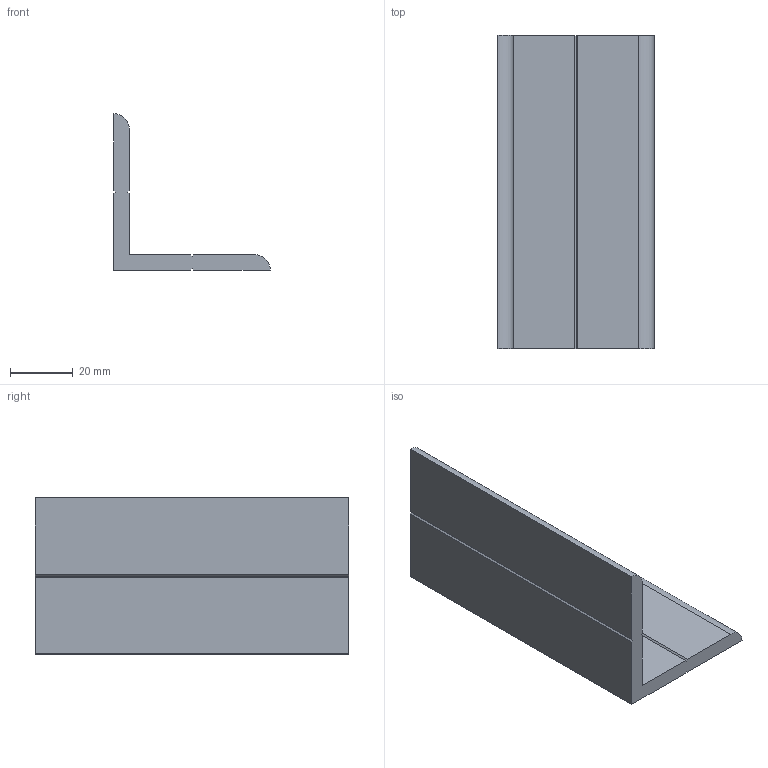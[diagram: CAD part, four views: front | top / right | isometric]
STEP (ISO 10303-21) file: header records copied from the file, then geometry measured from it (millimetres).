
FILE_DESCRIPTION(/* description */ ('Unknown'),/* implementation_level */ '2;1');
FILE_NAME(/* name */ 'NML5090',/* time_stamp */ '2026-09-02T13:04:08+08:00',/* author */ ('Unknown'),/* organization */ ('Unknown'),/* preprocessor_version */ 'ST-DEVELOPER v16.7',/* originating_system */ 'DEX',/* authorisation */ $);
FILE_SCHEMA (('AUTOMOTIVE_DESIGN {1 0 10303 214 3 1 1}'));
Length unit declared in the file: millimetre
Products named in the file (1): NML5090
Bounding box: 50 x 100 x 50 mm (x, y, z)
Volume: 46326.1 mm3; surface area: 20654.4 mm2
Topology: 1 solids, 1 shells, 21 faces, 57 edges, 38 vertices
Faces by surface type: plane 18, cylinder 3
Entity records: 828 total; most frequent: CARTESIAN_POINT 117, ORIENTED_EDGE 114, DIRECTION 107, EDGE_CURVE 57, LINE 51, VECTOR 51, VERTEX_POINT 38, AXIS2_PLACEMENT_3D 28
